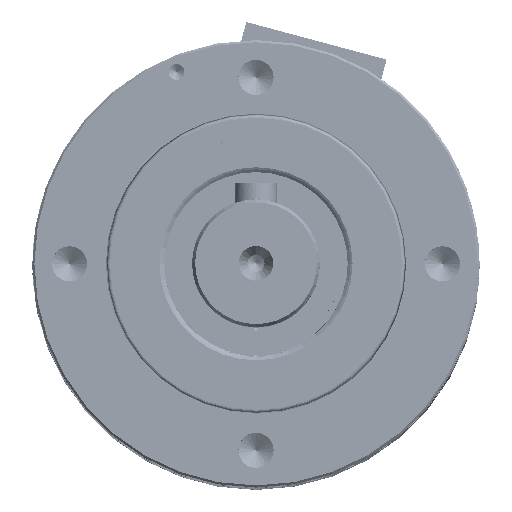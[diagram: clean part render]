
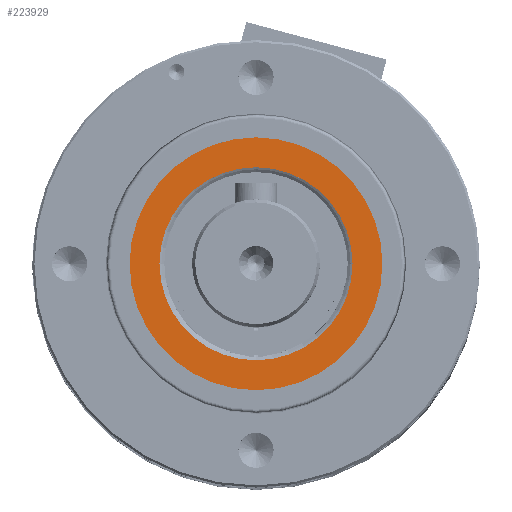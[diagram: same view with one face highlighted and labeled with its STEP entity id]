
A CAD part, top view. The second image highlights one B-rep face of the part: STEP entity #223929.
In plain terms, the highlighted planar face has unit normal (0, 0, 1).
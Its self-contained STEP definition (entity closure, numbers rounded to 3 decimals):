
#8172 = DIRECTION ( 'NONE',  ( 1., 0., 0. ) ) ;
#9379 = CARTESIAN_POINT ( 'NONE',  ( 5.131, -8.599, 109.685 ) ) ;
#25569 = EDGE_CURVE ( 'NONE', #236833, #85458, #148640, .T. ) ;
#53044 = EDGE_LOOP ( 'NONE', ( #113243, #91324 ) ) ;
#61362 = ORIENTED_EDGE ( 'NONE', *, *, #131513, .F. ) ;
#64535 = PLANE ( 'NONE',  #339842 ) ;
#66287 = EDGE_LOOP ( 'NONE', ( #61362, #193389 ) ) ;
#66786 = CARTESIAN_POINT ( 'NONE',  ( -3.929, -8.599, 109.685 ) ) ;
#85458 = VERTEX_POINT ( 'NONE', #274498 ) ;
#91324 = ORIENTED_EDGE ( 'NONE', *, *, #146853, .T. ) ;
#100816 = DIRECTION ( 'NONE',  ( 0., 0., 1. ) ) ;
#113243 = ORIENTED_EDGE ( 'NONE', *, *, #351797, .F. ) ;
#131513 = EDGE_CURVE ( 'NONE', #236833, #85458, #329808, .T. ) ;
#144340 = CARTESIAN_POINT ( 'NONE',  ( 16.996, -8.599, 109.685 ) ) ;
#146853 = EDGE_CURVE ( 'NONE', #352322, #291044, #358440, .T. ) ;
#148640 = CIRCLE ( 'NONE', #360182, 11.865 ) ;
#150131 = DIRECTION ( 'NONE',  ( 0., 0., -1. ) ) ;
#155749 = CARTESIAN_POINT ( 'NONE',  ( 5.131, -8.599, 109.685 ) ) ;
#157520 = DIRECTION ( 'NONE',  ( 1., 0., 0. ) ) ;
#166713 = DIRECTION ( 'NONE',  ( 0., 0., 1. ) ) ;
#178563 = CARTESIAN_POINT ( 'NONE',  ( 5.131, -8.599, 109.685 ) ) ;
#180210 = DIRECTION ( 'NONE',  ( 0., 0., 1. ) ) ;
#180889 = CARTESIAN_POINT ( 'NONE',  ( 5.131, -8.599, 109.685 ) ) ;
#182091 = FACE_OUTER_BOUND ( 'NONE', #66287, .T. ) ;
#184536 = CIRCLE ( 'NONE', #220601, 9.06 ) ;
#184854 = AXIS2_PLACEMENT_3D ( 'NONE', #180889, #237633, #8172 ) ;
#193389 = ORIENTED_EDGE ( 'NONE', *, *, #25569, .T. ) ;
#195303 = AXIS2_PLACEMENT_3D ( 'NONE', #178563, #150131, #157520 ) ;
#216314 = DIRECTION ( 'NONE',  ( 1., 0., 0. ) ) ;
#220601 = AXIS2_PLACEMENT_3D ( 'NONE', #155749, #100816, #216314 ) ;
#223929 = ADVANCED_FACE ( 'NONE', ( #240718, #182091 ), #64535, .T. ) ;
#229132 = DIRECTION ( 'NONE',  ( 1., 0., 0. ) ) ;
#236833 = VERTEX_POINT ( 'NONE', #144340 ) ;
#237633 = DIRECTION ( 'NONE',  ( 0., 0., -1. ) ) ;
#240718 = FACE_BOUND ( 'NONE', #53044, .T. ) ;
#274498 = CARTESIAN_POINT ( 'NONE',  ( -6.734, -8.599, 109.685 ) ) ;
#291044 = VERTEX_POINT ( 'NONE', #66786 ) ;
#297565 = DIRECTION ( 'NONE',  ( 1., 0., 0. ) ) ;
#314268 = CARTESIAN_POINT ( 'NONE',  ( 5.131, -8.599, 109.685 ) ) ;
#315904 = CARTESIAN_POINT ( 'NONE',  ( 14.191, -8.599, 109.685 ) ) ;
#329808 = CIRCLE ( 'NONE', #184854, 11.865 ) ;
#339842 = AXIS2_PLACEMENT_3D ( 'NONE', #9379, #180210, #297565 ) ;
#351797 = EDGE_CURVE ( 'NONE', #352322, #291044, #184536, .T. ) ;
#352322 = VERTEX_POINT ( 'NONE', #315904 ) ;
#358440 = CIRCLE ( 'NONE', #195303, 9.06 ) ;
#360182 = AXIS2_PLACEMENT_3D ( 'NONE', #314268, #166713, #229132 ) ;
